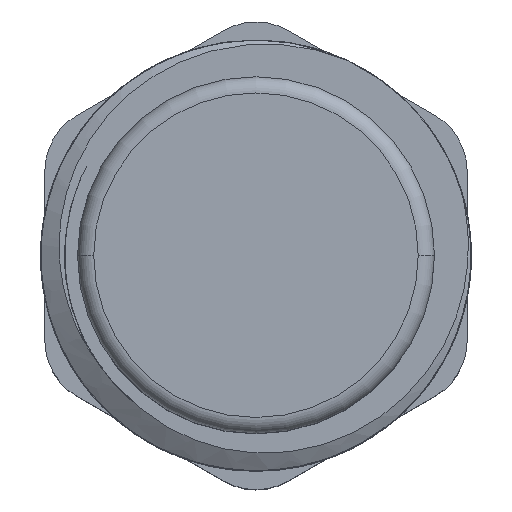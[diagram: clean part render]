
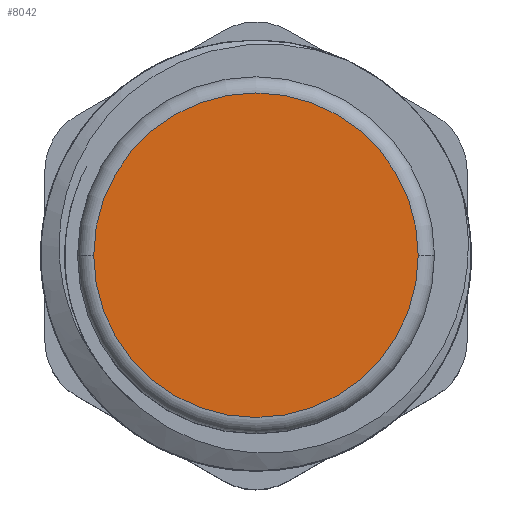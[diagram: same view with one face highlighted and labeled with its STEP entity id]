
A CAD part, top view. The second image highlights one B-rep face of the part: STEP entity #8042.
In plain terms, the highlighted planar face has unit normal (0, 0, 1).
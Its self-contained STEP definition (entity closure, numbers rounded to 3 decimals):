
#1=CARTESIAN_POINT('',(0.,0.,10.));
#2=DIRECTION('',(0.,0.,1.));
#3=DIRECTION('',(-1.,0.,0.));
#4=AXIS2_PLACEMENT_3D('',#1,#2,#3);
#6=CARTESIAN_POINT('',(0.,0.,10.));
#7=DIRECTION('',(0.,0.,1.));
#8=DIRECTION('',(1.,0.,0.));
#9=AXIS2_PLACEMENT_3D('',#6,#7,#8);
#6920=CARTESIAN_POINT('',(-10.,0.,10.));
#6921=CARTESIAN_POINT('',(10.,0.,10.));
#6922=VERTEX_POINT('',#6920);
#6923=VERTEX_POINT('',#6921);
#8031=CARTESIAN_POINT('',(0.,0.,10.));
#8032=DIRECTION('',(0.,0.,1.));
#8033=DIRECTION('',(1.,0.,0.));
#8034=AXIS2_PLACEMENT_3D('',#8031,#8032,#8033);
#8035=PLANE('',#8034);
#8037=ORIENTED_EDGE('',*,*,#8036,.F.);
#8039=ORIENTED_EDGE('',*,*,#8038,.F.);
#8040=EDGE_LOOP('',(#8037,#8039));
#8041=FACE_OUTER_BOUND('',#8040,.F.);
#8042=ADVANCED_FACE('',(#8041),#8035,.T.);
#5=CIRCLE('',#4,10.);
#10=CIRCLE('',#9,10.);
#8036=EDGE_CURVE('',#6922,#6923,#5,.T.);
#8038=EDGE_CURVE('',#6923,#6922,#10,.T.);
